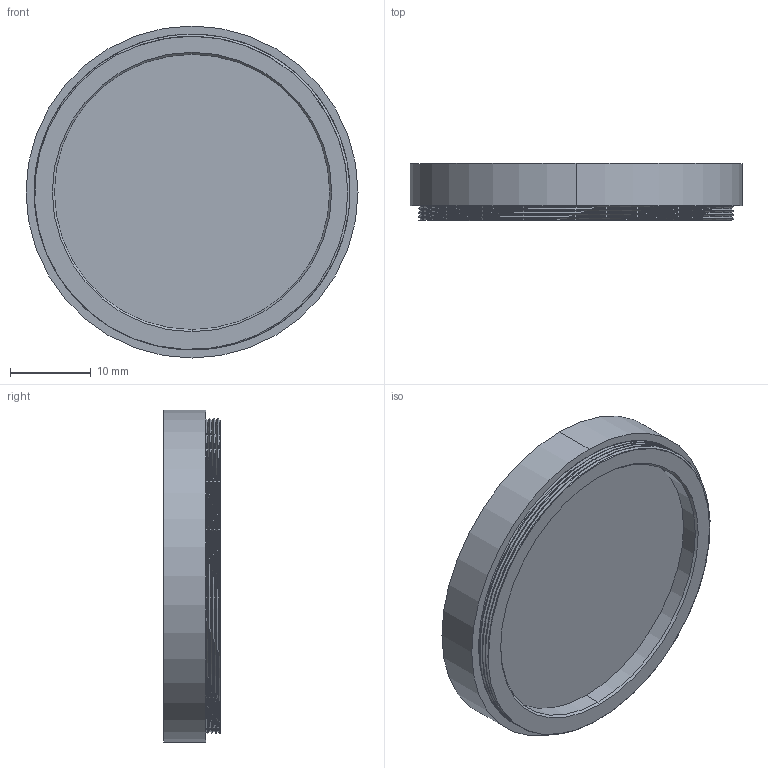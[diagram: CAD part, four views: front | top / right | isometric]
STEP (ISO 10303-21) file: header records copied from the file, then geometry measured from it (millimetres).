
FILE_DESCRIPTION (( 'STEP AP214' ), '1' );
FILE_NAME ('M39 x P0.5.STEP', '2023-01-19T08:17:57', ( '' ), ( '' ), 'SwSTEP 2.0', 'SolidWorks 2021', '' );
FILE_SCHEMA (( 'AUTOMOTIVE_DESIGN' ));
Length unit declared in the file: millimetre
Products named in the file (1): M39 x P0.5
Bounding box: 41 x 7 x 41 mm (x, y, z)
Volume: 2105.7 mm3; surface area: 5501.4 mm2
Topology: 3 solids, 3 shells, 50 faces, 121 edges, 80 vertices
Faces by surface type: cylinder 32, plane 10, bspline 6, cone 2
Entity records: 2890 total; most frequent: CARTESIAN_POINT 1795, ORIENTED_EDGE 242, DIRECTION 191, EDGE_CURVE 121, VERTEX_POINT 80, AXIS2_PLACEMENT_3D 79, EDGE_LOOP 57, FACE_OUTER_BOUND 50
